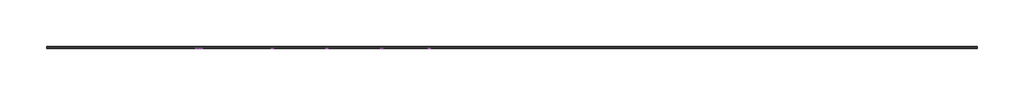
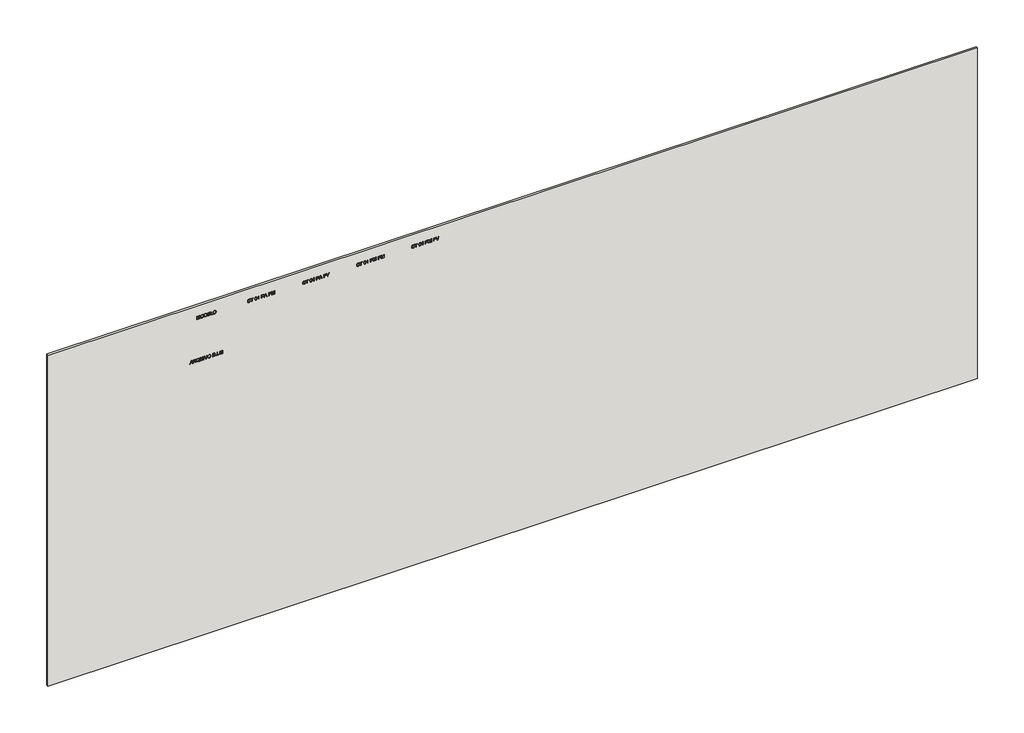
# One storey, incomplete: 6 proxies, 1 wall.
"""IFC4 building model written with IfcOpenShell, lengths in millimetres."""

from ifc_helpers import new_model, si_unit, frame, origin, place, context, project, spatial, polyline, outline, extrude, element, save

model = new_model("IFC4")

# Units and contexts
model_context = context("Model", 3, world=origin())
ifc_project = project(units=[si_unit("LENGTHUNIT", "METRE", prefix="MILLI")], contexts=[model_context])

# Site, building, storey
site = spatial("IfcSite", under=ifc_project)
building = spatial("IfcBuilding", under=site)
storey = spatial("IfcBuildingStorey", under=building, Name="01 - Marelli - Planta Baixa - Cabine 01 Pessoa", Elevation=0.0)

# Proxies
placement = place(None, origin())
element("IfcBuildingElementProxy", 1, Name="300mm Arial", ObjectType="300mm Arial", at=placement, inside=storey, context=model_context, shape_type="SweptSolid", body=[
    extrude(outline(polyline([(1600.0, -7636.3146377), (1600.0, -7596.5098058), (1694.1777908, -7562.076051), (1694.1777908, -7437.9526659), (1600.0, -7403.4453347), (1600.0, -7363.6405028), (1901.3689304, -7483.9379153), (1901.3689304, -7516.0172252), (1600.0, -7636.3146377)]), holes=[polyline([(1731.8489071, -7548.243688), (1812.415064, -7518.739552), (1863.6978141, -7499.9775703), (1805.9403409, -7478.8611437), (1731.8489071, -7451.7114525), (1731.8489071, -7548.243688)])]), frame((0.0, 8778.3159498, 0.0), z_axis=(0.0, 1.0, 0.0), x_axis=(0.0, 0.0, 1.0)), (0.0, 0.0, 1.0), 10.0),
    extrude(outline(polyline([(1600.0, -7323.3942126), (1600.0, -7285.7230963), (1731.8489071, -7285.7230963), (1731.8489071, -7240.2528817), (1730.5245319, -7218.4006911), (1723.350833, -7200.484838), (1703.816299, -7180.582422), (1662.4663628, -7152.2555084), (1600.0, -7113.0392877), (1600.0, -7069.2613303), (1681.6698029, -7119.5140108), (1720.4445652, -7150.0482164), (1736.5577966, -7171.4589486), (1746.5457928, -7134.3488523), (1754.5610217, -7119.9669655), (1764.5904046, -7108.3671864), (1789.2017101, -7093.0540983), (1818.8897871, -7087.9497357), (1842.7561316, -7091.0307474), (1864.4703663, -7100.2737825), (1881.9815493, -7114.6763626), (1893.2387384, -7133.2360093), (1899.3363824, -7158.629064), (1901.3689304, -7193.5318683), (1901.3689304, -7323.3942126), (1600.0, -7323.3942126)]), holes=[polyline([(1769.5200234, -7285.7230963), (1863.6978141, -7285.7230963), (1863.6978141, -7191.9131875), (1860.4420585, -7162.1055488), (1850.6747915, -7141.5501423), (1835.8675412, -7129.6031746), (1817.4918355, -7125.620852), (1804.1837044, -7127.7085823), (1791.9240369, -7133.9717732), (1781.7888879, -7144.254075), (1774.8543123, -7158.3991377), (1770.8535956, -7177.1887106), (1769.5200234, -7201.404543), (1769.5200234, -7285.7230963)])]), frame((0.0, 8778.3159498, 0.0), z_axis=(0.0, 1.0, 0.0), x_axis=(0.0, 0.0, 1.0)), (0.0, 0.0, 1.0), 10.0),
    extrude(outline(polyline([(1636.1260119, -6795.6307023), (1659.6520655, -6777.1814202), (1686.9673037, -6764.0664271), (1718.0349382, -6756.2305406), (1752.8181808, -6753.6185784), (1794.6463636, -6757.9227978), (1831.9863862, -6770.8354558), (1863.1827793, -6791.9610794), (1886.5800742, -6820.9041954), (1901.2033836, -6855.7702114), (1906.07782, -6894.6645354), (1901.3137481, -6933.2553567), (1887.0215326, -6967.9466288), (1863.6150407, -6996.93573), (1831.5081396, -7018.4200386), (1793.055274, -7031.7189727), (1750.6108888, -7036.1519507), (1708.2032918, -7031.7097756), (1670.3022493, -7018.3832504), (1638.6460036, -6996.8161684), (1614.9727972, -6967.6523232), (1600.2115321, -6932.8322924), (1595.2911105, -6894.2966534), (1599.5585416, -6855.9449554), (1612.360835, -6821.0881364), (1591.52032, -6790.1308665), (1577.1177399, -6759.063232), (1604.7088895, -6748.9096889), (1617.5295771, -6771.2953083), (1636.1260119, -6795.6307023)]), holes=[polyline([(1686.2315397, -6883.9223811), (1657.3895912, -6893.6344658), (1650.712533, -6873.2721974), (1640.6877487, -6853.9767867), (1634.8936072, -6873.6032912), (1632.9622268, -6894.5173826), (1634.8637168, -6916.2385151), (1640.568187, -6935.9316982), (1650.0756373, -6953.5969318), (1663.3860678, -6969.2342158), (1680.251158, -6982.0296115), (1700.4225876, -6991.1691798), (1723.9003567, -6996.6529208), (1750.6844652, -6998.4808344), (1778.1859436, -6996.6322274), (1802.0499888, -6991.0864063), (1822.2766007, -6981.8433712), (1838.8657795, -6968.903122), (1851.7899338, -6953.1577726), (1861.0214726, -6935.4994369), (1866.5603959, -6915.9281147), (1868.4067037, -6894.4438062), (1864.7554749, -6865.9605427), (1853.8017885, -6840.4019411), (1836.2354232, -6819.2027411), (1812.7461578, -6803.7976826), (1784.0605592, -6794.4166917), (1750.9051944, -6791.2896947), (1721.7321522, -6793.5015852), (1696.4586591, -6800.1372567), (1675.0847152, -6811.1967092), (1657.6103204, -6826.6799427), (1674.2569807, -6852.2477413), (1686.2315397, -6883.9223811)])]), frame((0.0, 8778.3159498, 0.0), z_axis=(0.0, 1.0, 0.0), x_axis=(0.0, 0.0, 1.0)), (0.0, 0.0, 1.0), 10.0),
    extrude(outline(polyline([(1901.3689304, -6499.3385434), (1728.8322747, -6499.3385434), (1681.6698029, -6504.1026152), (1664.9311721, -6510.057705), (1652.7542781, -6518.3948307), (1644.0952556, -6529.5278596), (1637.9102396, -6543.8706589), (1632.9622268, -6582.1855687), (1635.4638243, -6606.3554158), (1642.968617, -6626.4785609), (1655.0811317, -6641.9112106), (1671.4058953, -6652.0095714), (1694.9779341, -6657.5829836), (1728.8322747, -6659.4407877), (1901.3689304, -6659.4407877), (1901.3689304, -6697.111904), (1727.5078995, -6697.111904), (1684.7324205, -6694.2516215), (1652.0553023, -6685.6707739), (1627.6923172, -6670.4036711), (1609.8592375, -6647.4846228), (1598.9331422, -6616.904432), (1595.2911105, -6578.6539015), (1599.4757682, -6539.5480454), (1612.0297412, -6508.7563224), (1631.2515755, -6486.2235502), (1655.4398167, -6471.8945465), (1686.7925597, -6464.2242069), (1727.5078995, -6461.6674271), (1901.3689304, -6461.6674271), (1901.3689304, -6499.3385434)])), frame((0.0, 8778.3159498, 0.0), z_axis=(0.0, 1.0, 0.0), x_axis=(0.0, 0.0, 1.0)), (0.0, 0.0, 1.0), 10.0),
    extrude(outline(polyline([(-6353.3629677, 8778.3159498), (-6391.034084, 8778.3159498), (-6391.034084, 8788.3159498), (-6353.3629677, 8788.3159498), (-6353.3629677, 8778.3159498)])), frame((0.0, 0.0, 1600.0), z_axis=(0.0, 0.0, 1.0), x_axis=(1.0, 0.0, 0.0)), (0.0, 0.0, 1.0), 301.3689304),
    extrude(outline(polyline([(1600.0, -6188.9932922), (1600.0, -6150.0713771), (1901.3689304, -6035.2186183), (1901.3689304, -6075.5384849), (1684.2449769, -6156.0310655), (1635.3166715, -6172.0707205), (1684.2449769, -6188.3311046), (1901.3689304, -6268.602956), (1901.3689304, -6308.9228227), (1600.0, -6188.9932922)])), frame((0.0, 8778.3159498, 0.0), z_axis=(0.0, 1.0, 0.0), x_axis=(0.0, 0.0, 1.0)), (0.0, 0.0, 1.0), 10.0),
    extrude(outline(polyline([(1746.7113397, -6014.3229209), (1708.1665036, -6010.0187016), (1671.7002009, -5997.1060436), (1640.007167, -5975.8424642), (1615.7821376, -5946.485481), (1600.4138672, -5910.8377157), (1595.2911105, -5870.70179), (1599.9264236, -5832.892718), (1613.832363, -5797.7507904), (1636.7514113, -5767.7868019), (1668.4260511, -5745.5115471), (1706.8881137, -5731.6883811), (1750.1694304, -5727.0806591), (1792.8805301, -5731.4584548), (1830.8091638, -5744.5918421), (1862.4286213, -5766.0761506), (1886.2121922, -5795.5067102), (1901.1114131, -5830.9521404), (1906.07782, -5870.4810608), (1903.4336681, -5900.7715446), (1895.5012126, -5928.1465636), (1882.2804534, -5952.6061177), (1863.7713905, -5974.1502071), (1840.5902263, -5991.7257694), (1813.3531631, -6004.2797425), (1782.0602009, -6011.8121263), (1746.7113397, -6014.3229209)]), holes=[polyline([(1746.3434577, -5976.6518046), (1776.8799625, -5974.6882345), (1802.7121764, -5968.797524), (1823.8400992, -5958.9796733), (1840.263731, -5945.2346822), (1852.5762816, -5928.7673644), (1861.3709605, -5910.7825334), (1866.6477679, -5891.2801891), (1868.4067037, -5870.2603316), (1864.7554749, -5841.0964864), (1853.8017885, -5814.9676677), (1836.2078321, -5793.3086153), (1812.6357932, -5777.5540688), (1783.8122389, -5767.9523488), (1750.463736, -5764.7517754), (1723.9256486, -5766.6210758), (1700.5973316, -5772.228977), (1680.478785, -5781.5754789), (1663.5700088, -5794.6605816), (1650.1791041, -5810.642755), (1640.6141723, -5828.6804691), (1634.8752131, -5848.7737238), (1632.9622268, -5870.9225192), (1634.856819, -5892.6988341), (1640.5405959, -5912.557564), (1650.0135572, -5930.4987091), (1663.2757032, -5946.5222692), (1679.8349915, -5959.703941), (1699.19938, -5969.1194208), (1721.3688687, -5974.7687087), (1746.3434577, -5976.6518046)])]), frame((0.0, 8778.3159498, 0.0), z_axis=(0.0, 1.0, 0.0), x_axis=(0.0, 0.0, 1.0)), (0.0, 0.0, 1.0), 10.0),
    extrude(outline(polyline([(1600.0, -5557.5606357), (1600.0, -5443.4436408), (1605.1871361, -5395.1407348), (1611.6066769, -5377.10532), (1620.4910271, -5362.3624491), (1632.7598917, -5350.3235108), (1649.3329756, -5340.399894), (1668.8215242, -5333.7504269), (1689.8367832, -5331.5339379), (1715.055094, -5334.7804965), (1736.7049494, -5344.5201723), (1753.6643094, -5360.2931129), (1764.8111338, -5381.6394656), (1776.5557665, -5363.7695977), (1791.4825785, -5351.0684718), (1808.543106, -5343.4809057), (1826.6888854, -5340.951717), (1846.4073604, -5343.9591523), (1865.2429185, -5352.9814582), (1881.2549824, -5367.3104619), (1892.5029744, -5386.2379906), (1899.1524414, -5410.9320695), (1901.3689304, -5442.560724), (1901.3689304, -5557.5606357), (1600.0, -5557.5606357)]), holes=[polyline([(1778.9378025, -5519.8895194), (1863.6978141, -5519.8895194), (1863.6978141, -5456.3195106), (1859.7614768, -5407.9062401), (1854.1604734, -5395.4166463), (1845.230138, -5386.2012024), (1833.7890079, -5380.5174255), (1820.6556207, -5378.6228333), (1807.1267603, -5380.6553813), (1796.1178916, -5386.7530254), (1787.7577733, -5396.8605832), (1782.175164, -5410.9228724), (1778.9378025, -5451.0955863), (1778.9378025, -5519.8895194)]), polyline([(1637.6711163, -5519.8895194), (1741.2666861, -5519.8895194), (1741.2666861, -5446.3131204), (1740.0066903, -5419.4853259), (1736.2267028, -5399.776048), (1729.3381125, -5385.8609115), (1718.752308, -5376.4155413), (1705.2142506, -5371.007676), (1689.4689012, -5369.2050542), (1675.9124497, -5370.7409615), (1664.0850436, -5375.3486835), (1647.3464128, -5391.0204565), (1639.1426443, -5414.6752688), (1637.6711163, -5442.6343004), (1637.6711163, -5519.8895194)])]), frame((0.0, 8778.3159498, 0.0), z_axis=(0.0, 1.0, 0.0), x_axis=(0.0, 0.0, 1.0)), (0.0, 0.0, 1.0), 10.0),
    extrude(outline(polyline([(-5237.3561471, 8778.3159498), (-5275.0272634, 8778.3159498), (-5275.0272634, 8788.3159498), (-5237.3561471, 8788.3159498), (-5237.3561471, 8778.3159498)])), frame((0.0, 0.0, 1600.0), z_axis=(0.0, 0.0, 1.0), x_axis=(1.0, 0.0, 0.0)), (0.0, 0.0, 1.0), 37.6711163),
    extrude(outline(polyline([(-5119.6339087, 8778.3159498), (-5157.305025, 8778.3159498), (-5157.305025, 8788.3159498), (-5119.6339087, 8788.3159498), (-5119.6339087, 8778.3159498)])), frame((0.0, 0.0, 1600.0), z_axis=(0.0, 0.0, 1.0), x_axis=(1.0, 0.0, 0.0)), (0.0, 0.0, 1.0), 301.3689304),
    extrude(outline(polyline([(-5001.9116702, 8778.3159498), (-5039.5827865, 8778.3159498), (-5039.5827865, 8788.3159498), (-5001.9116702, 8788.3159498), (-5001.9116702, 8778.3159498)])), frame((0.0, 0.0, 1600.0), z_axis=(0.0, 0.0, 1.0), x_axis=(1.0, 0.0, 0.0)), (0.0, 0.0, 1.0), 37.6711163),
    extrude(outline(polyline([(1600.0, -4926.5694376), (1600.0, -4888.8983213), (1863.6978141, -4888.8983213), (1600.0, -4813.1882067), (1600.0, -4762.1261857), (1863.6978141, -4686.4160711), (1600.0, -4686.4160711), (1600.0, -4648.7449548), (1901.3689304, -4648.7449548), (1901.3689304, -4713.5657624), (1692.6326864, -4774.1927152), (1644.5872978, -4787.6571962), (1688.9538664, -4800.0916076), (1901.3689304, -4861.74863), (1901.3689304, -4926.5694376), (1600.0, -4926.5694376)])), frame((0.0, 8778.3159498, 0.0), z_axis=(0.0, 1.0, 0.0), x_axis=(0.0, 0.0, 1.0)), (0.0, 0.0, 1.0), 10.0),
])
element("IfcBuildingElementProxy", 2, Name="300mm Arial", ObjectType="300mm Arial", at=placement, inside=storey, context=model_context, shape_type="SweptSolid", body=[
    extrude(outline(polyline([(5700.0, -6993.7719449), (5700.0, -6956.1008286), (5963.6978141, -6956.1008286), (5700.0, -6880.390714), (5700.0, -6829.328693), (5963.6978141, -6753.6185784), (5700.0, -6753.6185784), (5700.0, -6715.9474621), (6001.3689304, -6715.9474621), (6001.3689304, -6780.7682697), (5792.6326864, -6841.3952225), (5744.5872978, -6854.8597035), (5788.9538664, -6867.2941149), (6001.3689304, -6928.9511373), (6001.3689304, -6993.7719449), (5700.0, -6993.7719449)])), frame((0.0, 8778.3159498, 0.0), z_axis=(0.0, 1.0, 0.0), x_axis=(0.0, 0.0, 1.0)), (0.0, 0.0, 1.0), 10.0),
    extrude(outline(polyline([(5846.7113397, -6664.1496772), (5808.1665036, -6659.8454579), (5771.7002009, -6646.9327998), (5740.007167, -6625.6692205), (5715.7821376, -6596.3122373), (5700.4138672, -6560.664472), (5695.2911105, -6520.5285463), (5699.9264236, -6482.7194742), (5713.832363, -6447.5775466), (5736.7514113, -6417.6135581), (5768.4260511, -6395.3383033), (5806.8881137, -6381.5151374), (5850.1694304, -6376.9074154), (5892.8805301, -6381.2852111), (5930.8091638, -6394.4185983), (5962.4286213, -6415.9029069), (5986.2121922, -6445.3334665), (6001.1114131, -6480.7788967), (6006.07782, -6520.3078171), (6003.4336681, -6550.5983009), (5995.5012126, -6577.9733198), (5982.2804534, -6602.432874), (5963.7713905, -6623.9769633), (5940.5902263, -6641.5525257), (5913.3531631, -6654.1064987), (5882.0602009, -6661.6388826), (5846.7113397, -6664.1496772)]), holes=[polyline([(5846.3434577, -6626.4785609), (5876.8799625, -6624.5149908), (5902.7121764, -6618.6242803), (5923.8400992, -6608.8064296), (5940.263731, -6595.0614385), (5952.5762816, -6578.5941207), (5961.3709605, -6560.6092897), (5966.6477679, -6541.1069454), (5968.4067037, -6520.0870879), (5964.7554749, -6490.9232427), (5953.8017885, -6464.794424), (5936.2078321, -6443.1353716), (5912.6357932, -6427.3808251), (5883.8122389, -6417.779105), (5850.463736, -6414.5785317), (5823.9256486, -6416.4478321), (5800.5973316, -6422.0557332), (5780.478785, -6431.4022352), (5763.5700088, -6444.4873379), (5750.1791041, -6460.4695113), (5740.6141723, -6478.5072254), (5734.8752131, -6498.6004801), (5732.9622268, -6520.7492755), (5734.856819, -6542.5255903), (5740.5405959, -6562.3843203), (5750.0135572, -6580.3254653), (5763.2757032, -6596.3490255), (5779.8349915, -6609.5306972), (5799.19938, -6618.9461771), (5821.3688687, -6624.5954649), (5846.3434577, -6626.4785609)])]), frame((0.0, 8778.3159498, 0.0), z_axis=(0.0, 1.0, 0.0), x_axis=(0.0, 0.0, 1.0)), (0.0, 0.0, 1.0), 10.0),
    extrude(outline(polyline([(5700.0, -6325.1096305), (5700.0, -6216.1429835), (5705.1503479, -6167.6929247), (5711.5055094, -6148.1491937), (5720.2702979, -6131.6772774), (5732.088507, -6117.3298796), (5747.6039302, -6104.1597042), (5767.2580258, -6092.7185741), (5791.4922522, -6083.5583124), (5819.9571216, -6077.5434418), (5852.303146, -6075.5384849), (5890.3789325, -6078.499935), (5923.9665587, -6087.3842852), (5952.5142015, -6102.2283237), (5975.470038, -6123.0688387), (5988.6586075, -6143.3391366), (5997.0279229, -6167.3618309), (6001.3689304, -6221.1461786), (6001.3689304, -6325.1096305), (5700.0, -6325.1096305)]), holes=[polyline([(5737.6711163, -6287.4385141), (5963.6978141, -6287.4385141), (5963.6978141, -6221.8083662), (5962.189498, -6190.06015), (5957.6645494, -6168.3919005), (5945.0829852, -6147.10073), (5924.2608643, -6129.2860444), (5893.9473879, -6117.228712), (5852.8917572, -6113.2096012), (5821.9068962, -6115.2605434), (5795.9068361, -6121.4133697), (5774.7996067, -6131.245016), (5758.4932372, -6144.332418), (5749.6824634, -6156.5093121), (5743.1157698, -6172.2914497), (5739.0322797, -6193.2055411), (5737.6711163, -6220.7782966), (5737.6711163, -6287.4385141)])]), frame((0.0, 8778.3159498, 0.0), z_axis=(0.0, 1.0, 0.0), x_axis=(0.0, 0.0, 1.0)), (0.0, 0.0, 1.0), 10.0),
    extrude(outline(polyline([(5700.0, -6023.7407), (5700.0, -5802.4228917), (5737.6711163, -5802.4228917), (5737.6711163, -5986.0695837), (5836.5577966, -5986.0695837), (5836.5577966, -5816.5495603), (5874.2289129, -5816.5495603), (5874.2289129, -5986.0695837), (5963.6978141, -5986.0695837), (5963.6978141, -5807.1317812), (6001.3689304, -5807.1317812), (6001.3689304, -6023.7407), (5700.0, -6023.7407)])), frame((0.0, 8778.3159498, 0.0), z_axis=(0.0, 1.0, 0.0), x_axis=(0.0, 0.0, 1.0)), (0.0, 0.0, 1.0), 10.0),
    extrude(outline(polyline([(5700.0, -5745.9162172), (5700.0, -5557.5606357), (5737.6711163, -5557.5606357), (5737.6711163, -5708.2451009), (6001.3689304, -5708.2451009), (6001.3689304, -5745.9162172), (5700.0, -5745.9162172)])), frame((0.0, 8778.3159498, 0.0), z_axis=(0.0, 1.0, 0.0), x_axis=(0.0, 0.0, 1.0)), (0.0, 0.0, 1.0), 10.0),
    extrude(outline(polyline([(5846.7113397, -5529.3072985), (5808.1665036, -5525.0030791), (5771.7002009, -5512.0904211), (5740.007167, -5490.8268418), (5715.7821376, -5461.4698586), (5700.4138672, -5425.8220932), (5695.2911105, -5385.6861676), (5699.9264236, -5347.8770955), (5713.832363, -5312.7351679), (5736.7514113, -5282.7711794), (5768.4260511, -5260.4959246), (5806.8881137, -5246.6727586), (5850.1694304, -5242.0650367), (5892.8805301, -5246.4428324), (5930.8091638, -5259.5762196), (5962.4286213, -5281.0605281), (5986.2121922, -5310.4910878), (6001.1114131, -5345.936518), (6006.07782, -5385.4654384), (6003.4336681, -5415.7559222), (5995.5012126, -5443.1309411), (5982.2804534, -5467.5904953), (5963.7713905, -5489.1345846), (5940.5902263, -5506.7101469), (5913.3531631, -5519.26412), (5882.0602009, -5526.7965039), (5846.7113397, -5529.3072985)]), holes=[polyline([(5846.3434577, -5491.6361822), (5876.8799625, -5489.672612), (5902.7121764, -5483.7819016), (5923.8400992, -5473.9640508), (5940.263731, -5460.2190598), (5952.5762816, -5443.751742), (5961.3709605, -5425.7669109), (5966.6477679, -5406.2645667), (5968.4067037, -5385.2447092), (5964.7554749, -5356.080864), (5953.8017885, -5329.9520453), (5936.2078321, -5308.2929928), (5912.6357932, -5292.5384464), (5883.8122389, -5282.9367263), (5850.463736, -5279.736153), (5823.9256486, -5281.6054533), (5800.5973316, -5287.2133545), (5780.478785, -5296.5598565), (5763.5700088, -5309.6449592), (5750.1791041, -5325.6271326), (5740.6141723, -5343.6648467), (5734.8752131, -5363.7581014), (5732.9622268, -5385.9068968), (5734.856819, -5407.6832116), (5740.5405959, -5427.5419416), (5750.0135572, -5445.4830866), (5763.2757032, -5461.5066468), (5779.8349915, -5474.6883185), (5799.19938, -5484.1037983), (5821.3688687, -5489.7530862), (5846.3434577, -5491.6361822)])]), frame((0.0, 8778.3159498, 0.0), z_axis=(0.0, 1.0, 0.0), x_axis=(0.0, 0.0, 1.0)), (0.0, 0.0, 1.0), 10.0),
])
element("IfcBuildingElementProxy", 3, Name="300mm Arial", ObjectType="300mm Arial", at=placement, inside=storey, context=model_context, shape_type="SweptSolid", body=[
    extrude(outline(polyline([(5807.127237, -2142.1019653), (5774.863986, -2154.2880564), (5751.6506321, -2174.0709107), (5737.6343281, -2200.2733058), (5732.9622268, -2231.7180194), (5736.3927264, -2258.6929667), (5746.6842252, -2283.6997453), (5763.9102996, -2304.5586544), (5788.144526, -2319.0899932), (5818.2372732, -2327.6156585), (5853.03891, -2330.4575469), (5881.4577941, -2328.0571169), (5909.0305497, -2320.8558268), (5933.4211259, -2307.7316366), (5952.2934723, -2287.5625062), (5964.3783958, -2260.9830321), (5968.4067037, -2228.6278106), (5964.773869, -2200.5584144), (5953.8753649, -2177.7129425), (5935.0306097, -2159.8706657), (5907.5590217, -2146.8108549), (5916.5353424, -2109.1397386), (5954.3536115, -2125.7772018), (5969.6758966, -2137.5793161), (5982.6069487, -2151.7036854), (5992.8754549, -2167.8835954), (6000.2101022, -2185.8523316), (6006.07782, -2227.1562826), (6001.5436744, -2265.0113399), (5987.9412376, -2299.5554593), (5965.6016035, -2328.6825162), (5934.8558657, -2350.2863864), (5896.9088379, -2363.668094), (5852.9653336, -2368.1286632), (5811.3026976, -2364.1831288), (5772.3991767, -2352.3465256), (5739.3081912, -2332.9591444), (5715.0831618, -2306.3612762), (5700.2391233, -2271.660807), (5695.2911105, -2227.965623), (5696.9258861, -2205.5432154), (5701.8302129, -2184.9234296), (5710.004091, -2166.1062655), (5721.4475203, -2149.0917233), (5736.004151, -2134.2154951), (5753.5176332, -2121.8132733), (5773.987967, -2111.885058), (5797.4151523, -2104.430849), (5807.127237, -2142.1019653)])), frame((0.0, 8778.3159498, 0.0), z_axis=(0.0, 1.0, 0.0), x_axis=(0.0, 0.0, 1.0)), (0.0, 0.0, 1.0), 10.0),
    extrude(outline(polyline([(5700.0, -1977.2908315), (5700.0, -1939.6197152), (5963.6978141, -1939.6197152), (5963.6978141, -1840.7330349), (6001.3689304, -1840.7330349), (6001.3689304, -2076.1775118), (5963.6978141, -2076.1775118), (5963.6978141, -1977.2908315), (5700.0, -1977.2908315)])), frame((0.0, 8778.3159498, 0.0), z_axis=(0.0, 1.0, 0.0), x_axis=(0.0, 0.0, 1.0)), (0.0, 0.0, 1.0), 10.0),
    extrude(outline(polyline([(5848.2564441, -1694.7574592), (5808.8148956, -1692.881261), (5774.9559565, -1687.2526665), (5746.6796267, -1677.8716756), (5723.9859061, -1664.7382884), (5711.431933, -1651.0530782), (5702.4648094, -1635.0134232), (5697.0845352, -1616.6193234), (5695.2911105, -1595.8707789), (5699.4205859, -1565.4193468), (5711.809012, -1540.7252678), (5732.5943448, -1521.6229952), (5761.9145398, -1507.9469821), (5800.2938289, -1499.7248195), (5848.2564441, -1496.9840986), (5888.2176258, -1498.6947499), (5919.0737281, -1503.8267037), (5943.3723339, -1511.6625902), (5963.6610259, -1521.4850395), (5979.8018485, -1534.489668), (5991.6568458, -1551.8720923), (5998.9409093, -1572.657425), (6001.3689304, -1595.8707789), (5997.2670462, -1626.1566642), (5984.9613935, -1650.7955608), (5964.2588342, -1669.9254245), (5934.9662303, -1683.6842112), (5896.4949707, -1691.9891472), (5848.2564441, -1694.7574592)]), holes=[polyline([(5848.3300205, -1657.0863429), (5906.8232577, -1652.5246062), (5927.902896, -1646.8224352), (5943.5378808, -1638.8393959), (5958.6578308, -1619.8934732), (5963.6978141, -1596.3122373), (5957.9772491, -1571.4066262), (5940.815554, -1551.7249395), (5926.4543607, -1544.256935), (5906.2530406, -1538.9226461), (5848.3300205, -1534.6552149), (5789.1653986, -1539.0697988), (5768.9019984, -1544.5880288), (5754.8512055, -1552.3135507), (5738.4344714, -1572.0320256), (5732.9622268, -1595.8707789), (5738.4160773, -1619.7095322), (5754.7776291, -1639.4280071), (5768.8054294, -1647.153529), (5789.0734281, -1652.671759), (5848.3300205, -1657.0863429)])]), frame((0.0, 8778.3159498, 0.0), z_axis=(0.0, 1.0, 0.0), x_axis=(0.0, 0.0, 1.0)), (0.0, 0.0, 1.0), 10.0),
    extrude(outline(polyline([(5700.0, -1322.7551857), (6001.3689304, -1322.7551857), (6001.3689304, -1347.0353974), (5981.6320614, -1360.3435285), (5961.269793, -1380.5494471), (5942.1215351, -1406.1816251), (5926.0266978, -1435.7685346), (5890.4157207, -1435.7685346), (5909.4352199, -1396.1108555), (5934.8558657, -1360.426302), (5700.0, -1360.426302), (5700.0, -1322.7551857)])), frame((0.0, 8778.3159498, 0.0), z_axis=(0.0, 1.0, 0.0), x_axis=(0.0, 0.0, 1.0)), (0.0, 0.0, 1.0), 10.0),
    extrude(outline(polyline([(5700.0, -1101.4373774), (5700.0, -1063.7662611), (5822.431128, -1063.7662611), (5822.431128, -987.1732297), (5824.095794, -957.9748956), (5829.0897921, -933.6555964), (5837.4131222, -914.2153323), (5849.0657844, -899.654103), (5863.1234752, -889.0476053), (5878.661891, -881.4715354), (5895.6810318, -876.9258935), (5914.1808976, -875.4106796), (5935.637615, -877.6547597), (5955.2733165, -884.3870002), (5971.9199767, -894.8072577), (5984.4095705, -908.1153889), (5993.1375708, -924.6424876), (5998.4994509, -944.7196474), (6001.3689304, -989.7484037), (6001.3689304, -1101.4373774), (5700.0, -1101.4373774)]), holes=[polyline([(5860.1022443, -1063.7662611), (5963.6978141, -1063.7662611), (5963.6978141, -985.8488545), (5961.1226402, -948.1777382), (5954.7950699, -933.949902), (5944.0529156, -922.7570923), (5929.7790942, -915.50062), (5912.8565224, -913.0817959), (5890.5812676, -917.1836801), (5873.9346073, -929.4893328), (5863.5603351, -951.5622526), (5860.1022443, -984.9659377), (5860.1022443, -1063.7662611)])]), frame((0.0, 8778.3159498, 0.0), z_axis=(0.0, 1.0, 0.0), x_axis=(0.0, 0.0, 1.0)), (0.0, 0.0, 1.0), 10.0),
    extrude(outline(polyline([(5700.0, -858.708837), (5700.0, -818.9040051), (5794.1777908, -784.4702503), (5794.1777908, -660.3468652), (5700.0, -625.839534), (5700.0, -586.0347021), (6001.3689304, -706.3321146), (6001.3689304, -738.4114245), (5700.0, -858.708837)]), holes=[polyline([(5831.8489071, -770.6378873), (5912.415064, -741.1337513), (5963.6978141, -722.3717696), (5905.9403409, -701.255343), (5831.8489071, -674.1056518), (5831.8489071, -770.6378873)])]), frame((0.0, 8778.3159498, 0.0), z_axis=(0.0, 1.0, 0.0), x_axis=(0.0, 0.0, 1.0)), (0.0, 0.0, 1.0), 10.0),
    extrude(outline(polyline([(5700.0, -428.0661734), (5700.0, -390.3950571), (5836.5577966, -390.3950571), (5836.5577966, -249.128371), (5874.2289129, -249.128371), (5874.2289129, -390.3950571), (5963.6978141, -390.3950571), (5963.6978141, -225.5839233), (6001.3689304, -225.5839233), (6001.3689304, -428.0661734), (5700.0, -428.0661734)])), frame((0.0, 8778.3159498, 0.0), z_axis=(0.0, 1.0, 0.0), x_axis=(0.0, 0.0, 1.0)), (0.0, 0.0, 1.0), 10.0),
    extrude(outline(polyline([(5700.0, -173.7861383), (5700.0, -136.115022), (5963.6978141, -136.115022), (5700.0, -60.4049074), (5700.0, -9.3428865), (5963.6978141, 66.3672281), (5700.0, 66.3672281), (5700.0, 104.0383444), (6001.3689304, 104.0383444), (6001.3689304, 39.2175369), (5792.6326864, -21.4094159), (5744.5872978, -34.873897), (5788.9538664, -47.3083084), (6001.3689304, -108.9653308), (6001.3689304, -173.7861383), (5700.0, -173.7861383)])), frame((0.0, 8778.3159498, 0.0), z_axis=(0.0, 1.0, 0.0), x_axis=(0.0, 0.0, 1.0)), (0.0, 0.0, 1.0), 10.0),
])
element("IfcBuildingElementProxy", 4, Name="300mm Arial", ObjectType="300mm Arial", at=placement, inside=storey, context=model_context, shape_type="SweptSolid", body=[
    extrude(outline(polyline([(5807.127237, 7824.9358079), (5774.863986, 7812.7497168), (5751.6506321, 7792.9668625), (5737.6343281, 7766.7644674), (5732.9622268, 7735.3197539), (5736.3927264, 7708.3448066), (5746.6842252, 7683.3380279), (5763.9102996, 7662.4791188), (5788.144526, 7647.94778), (5818.2372732, 7639.4221148), (5853.03891, 7636.5802264), (5881.4577941, 7638.9806564), (5909.0305497, 7646.1819464), (5933.4211259, 7659.3061366), (5952.2934723, 7679.475267), (5964.3783958, 7706.0547411), (5968.4067037, 7738.4099626), (5964.773869, 7766.4793589), (5953.8753649, 7789.3248308), (5935.0306097, 7807.1671075), (5907.5590217, 7820.2269184), (5916.5353424, 7857.8980347), (5954.3536115, 7841.2605714), (5969.6758966, 7829.4584572), (5982.6069487, 7815.3340878), (5992.8754549, 7799.1541778), (6000.2101022, 7781.1854416), (6006.07782, 7739.8814906), (6001.5436744, 7702.0264333), (5987.9412376, 7667.482314), (5965.6016035, 7638.355257), (5934.8558657, 7616.7513868), (5896.9088379, 7603.3696792), (5852.9653336, 7598.9091101), (5811.3026976, 7602.8546445), (5772.3991767, 7614.6912476), (5739.3081912, 7634.0786288), (5715.0831618, 7660.676497), (5700.2391233, 7695.3769662), (5695.2911105, 7739.0721502), (5696.9258861, 7761.4945578), (5701.8302129, 7782.1143437), (5710.004091, 7800.9315077), (5721.4475203, 7817.94605), (5736.004151, 7832.8222782), (5753.5176332, 7845.2244999), (5773.987967, 7855.1527153), (5797.4151523, 7862.6069242), (5807.127237, 7824.9358079)])), frame((0.0, 8778.3159498, 0.0), z_axis=(0.0, 1.0, 0.0), x_axis=(0.0, 0.0, 1.0)), (0.0, 0.0, 1.0), 10.0),
    extrude(outline(polyline([(5700.0, 7989.7469417), (5700.0, 8027.418058), (5963.6978141, 8027.418058), (5963.6978141, 8126.3047383), (6001.3689304, 8126.3047383), (6001.3689304, 7890.8602614), (5963.6978141, 7890.8602614), (5963.6978141, 7989.7469417), (5700.0, 7989.7469417)])), frame((0.0, 8778.3159498, 0.0), z_axis=(0.0, 1.0, 0.0), x_axis=(0.0, 0.0, 1.0)), (0.0, 0.0, 1.0), 10.0),
    extrude(outline(polyline([(5848.2564441, 8272.280314), (5808.8148956, 8274.1565122), (5774.9559565, 8279.7851067), (5746.6796267, 8289.1660976), (5723.9859061, 8302.2994848), (5711.431933, 8315.9846951), (5702.4648094, 8332.02435), (5697.0845352, 8350.4184498), (5695.2911105, 8371.1669943), (5699.4205859, 8401.6184265), (5711.809012, 8426.3125054), (5732.5943448, 8445.414778), (5761.9145398, 8459.0907912), (5800.2938289, 8467.3129538), (5848.2564441, 8470.0536746), (5888.2176258, 8468.3430234), (5919.0737281, 8463.2110695), (5943.3723339, 8455.375183), (5963.6610259, 8445.5527338), (5979.8018485, 8432.5481052), (5991.6568458, 8415.165681), (5998.9409093, 8394.3803482), (6001.3689304, 8371.1669943), (5997.2670462, 8340.8811091), (5984.9613935, 8316.2422124), (5964.2588342, 8297.1123487), (5934.9662303, 8283.3535621), (5896.4949707, 8275.048626), (5848.2564441, 8272.280314)]), holes=[polyline([(5848.3300205, 8309.9514303), (5906.8232577, 8314.5131671), (5927.902896, 8320.215338), (5943.5378808, 8328.1983773), (5958.6578308, 8347.1443), (5963.6978141, 8370.7255359), (5957.9772491, 8395.631147), (5940.815554, 8415.3128337), (5926.4543607, 8422.7808383), (5906.2530406, 8428.1151272), (5848.3300205, 8432.3825583), (5789.1653986, 8427.9679744), (5768.9019984, 8422.4497445), (5754.8512055, 8414.7242226), (5738.4344714, 8395.0057476), (5732.9622268, 8371.1669943), (5738.4160773, 8347.328241), (5754.7776291, 8327.6097661), (5768.8054294, 8319.8842442), (5789.0734281, 8314.3660143), (5848.3300205, 8309.9514303)])]), frame((0.0, 8778.3159498, 0.0), z_axis=(0.0, 1.0, 0.0), x_axis=(0.0, 0.0, 1.0)), (0.0, 0.0, 1.0), 10.0),
    extrude(outline(polyline([(5700.0, 8644.2825875), (6001.3689304, 8644.2825875), (6001.3689304, 8620.0023759), (5981.6320614, 8606.6942447), (5961.269793, 8586.4883261), (5942.1215351, 8560.8561481), (5926.0266978, 8531.2692386), (5890.4157207, 8531.2692386), (5909.4352199, 8570.9269177), (5934.8558657, 8606.6114712), (5700.0, 8606.6114712), (5700.0, 8644.2825875)])), frame((0.0, 8778.3159498, 0.0), z_axis=(0.0, 1.0, 0.0), x_axis=(0.0, 0.0, 1.0)), (0.0, 0.0, 1.0), 10.0),
    extrude(outline(polyline([(5700.0, 8865.6003958), (5700.0, 8903.2715122), (5822.431128, 8903.2715122), (5822.431128, 8979.8645435), (5824.095794, 9009.0628777), (5829.0897921, 9033.3821768), (5837.4131222, 9052.822441), (5849.0657844, 9067.3836702), (5863.1234752, 9077.990168), (5878.661891, 9085.5662378), (5895.6810318, 9090.1118797), (5914.1808976, 9091.6270937), (5935.637615, 9089.3830135), (5955.2733165, 9082.650773), (5971.9199767, 9072.2305155), (5984.4095705, 9058.9223843), (5993.1375708, 9042.3952857), (5998.4994509, 9022.3181258), (6001.3689304, 8977.2893696), (6001.3689304, 8865.6003958), (5700.0, 8865.6003958)]), holes=[polyline([(5860.1022443, 8903.2715122), (5963.6978141, 8903.2715122), (5963.6978141, 8981.1889187), (5961.1226402, 9018.860035), (5954.7950699, 9033.0878712), (5944.0529156, 9044.2806809), (5929.7790942, 9051.5371533), (5912.8565224, 9053.9559774), (5890.5812676, 9049.8540931), (5873.9346073, 9037.5484404), (5863.5603351, 9015.4755207), (5860.1022443, 8982.0718355), (5860.1022443, 8903.2715122)])]), frame((0.0, 8778.3159498, 0.0), z_axis=(0.0, 1.0, 0.0), x_axis=(0.0, 0.0, 1.0)), (0.0, 0.0, 1.0), 10.0),
    extrude(outline(polyline([(5700.0, 9143.4248786), (5700.0, 9181.0959949), (5963.6978141, 9181.0959949), (5700.0, 9256.8061095), (5700.0, 9307.8681304), (5963.6978141, 9383.5782451), (5700.0, 9383.5782451), (5700.0, 9421.2493614), (6001.3689304, 9421.2493614), (6001.3689304, 9356.4285538), (5792.6326864, 9295.801601), (5744.5872978, 9282.33712), (5788.9538664, 9269.9027085), (6001.3689304, 9208.2456862), (6001.3689304, 9143.4248786), (5700.0, 9143.4248786)])), frame((0.0, 8778.3159498, 0.0), z_axis=(0.0, 1.0, 0.0), x_axis=(0.0, 0.0, 1.0)), (0.0, 0.0, 1.0), 10.0),
    extrude(outline(polyline([(5700.0, 9604.8960534), (5700.0, 9642.5671697), (5836.5577966, 9642.5671697), (5836.5577966, 9783.8338558), (5874.2289129, 9783.8338558), (5874.2289129, 9642.5671697), (5963.6978141, 9642.5671697), (5963.6978141, 9807.3783035), (6001.3689304, 9807.3783035), (6001.3689304, 9604.8960534), (5700.0, 9604.8960534)])), frame((0.0, 8778.3159498, 0.0), z_axis=(0.0, 1.0, 0.0), x_axis=(0.0, 0.0, 1.0)), (0.0, 0.0, 1.0), 10.0),
    extrude(outline(polyline([(5700.0, 9859.1760884), (5700.0, 9896.8472047), (5963.6978141, 9896.8472047), (5700.0, 9972.5573193), (5700.0, 10023.6193403), (5963.6978141, 10099.3294549), (5700.0, 10099.3294549), (5700.0, 10137.0005712), (6001.3689304, 10137.0005712), (6001.3689304, 10072.1797636), (5792.6326864, 10011.5528108), (5744.5872978, 9998.0883298), (5788.9538664, 9985.6539184), (6001.3689304, 9923.996896), (6001.3689304, 9859.1760884), (5700.0, 9859.1760884)])), frame((0.0, 8778.3159498, 0.0), z_axis=(0.0, 1.0, 0.0), x_axis=(0.0, 0.0, 1.0)), (0.0, 0.0, 1.0), 10.0),
])
element("IfcBuildingElementProxy", 5, Name="300mm Arial", ObjectType="300mm Arial", at=placement, inside=storey, context=model_context, shape_type="SweptSolid", body=[
    extrude(outline(polyline([(5807.127237, 2890.8602614), (5774.863986, 2878.6741703), (5751.6506321, 2858.891316), (5737.6343281, 2832.6889209), (5732.9622268, 2801.2442074), (5736.3927264, 2774.2692601), (5746.6842252, 2749.2624815), (5763.9102996, 2728.4035724), (5788.144526, 2713.8722335), (5818.2372732, 2705.3465683), (5853.03891, 2702.5046799), (5881.4577941, 2704.9051099), (5909.0305497, 2712.1064), (5933.4211259, 2725.2305901), (5952.2934723, 2745.3997205), (5964.3783958, 2771.9791947), (5968.4067037, 2804.3344162), (5964.773869, 2832.4038124), (5953.8753649, 2855.2492843), (5935.0306097, 2873.0915611), (5907.5590217, 2886.1513719), (5916.5353424, 2923.8224882), (5954.3536115, 2907.185025), (5969.6758966, 2895.3829107), (5982.6069487, 2881.2585414), (5992.8754549, 2865.0786314), (6000.2101022, 2847.1098951), (6006.07782, 2805.8059441), (6001.5436744, 2767.9508868), (5987.9412376, 2733.4067675), (5965.6016035, 2704.2797105), (5934.8558657, 2682.6758404), (5896.9088379, 2669.2941328), (5852.9653336, 2664.8335636), (5811.3026976, 2668.779098), (5772.3991767, 2680.6157012), (5739.3081912, 2700.0030823), (5715.0831618, 2726.6009506), (5700.2391233, 2761.3014198), (5695.2911105, 2804.9966038), (5696.9258861, 2827.4190114), (5701.8302129, 2848.0387972), (5710.004091, 2866.8559612), (5721.4475203, 2883.8705035), (5736.004151, 2898.7467317), (5753.5176332, 2911.1489535), (5773.987967, 2921.0771688), (5797.4151523, 2928.5313777), (5807.127237, 2890.8602614)])), frame((0.0, 8778.3159498, 0.0), z_axis=(0.0, 1.0, 0.0), x_axis=(0.0, 0.0, 1.0)), (0.0, 0.0, 1.0), 10.0),
    extrude(outline(polyline([(5700.0, 3055.6713953), (5700.0, 3093.3425116), (5963.6978141, 3093.3425116), (5963.6978141, 3192.2291919), (6001.3689304, 3192.2291919), (6001.3689304, 2956.784715), (5963.6978141, 2956.784715), (5963.6978141, 3055.6713953), (5700.0, 3055.6713953)])), frame((0.0, 8778.3159498, 0.0), z_axis=(0.0, 1.0, 0.0), x_axis=(0.0, 0.0, 1.0)), (0.0, 0.0, 1.0), 10.0),
    extrude(outline(polyline([(5848.2564441, 3338.2047676), (5808.8148956, 3340.0809657), (5774.9559565, 3345.7095603), (5746.6796267, 3355.0905511), (5723.9859061, 3368.2239384), (5711.431933, 3381.9091486), (5702.4648094, 3397.9488036), (5697.0845352, 3416.3429033), (5695.2911105, 3437.0914479), (5699.4205859, 3467.54288), (5711.809012, 3492.2369589), (5732.5943448, 3511.3392315), (5761.9145398, 3525.0152447), (5800.2938289, 3533.2374073), (5848.2564441, 3535.9781282), (5888.2176258, 3534.2674769), (5919.0737281, 3529.1355231), (5943.3723339, 3521.2996366), (5963.6610259, 3511.4771873), (5979.8018485, 3498.4725588), (5991.6568458, 3481.0901345), (5998.9409093, 3460.3048018), (6001.3689304, 3437.0914479), (5997.2670462, 3406.8055626), (5984.9613935, 3382.166666), (5964.2588342, 3363.0368022), (5934.9662303, 3349.2780156), (5896.4949707, 3340.9730796), (5848.2564441, 3338.2047676)]), holes=[polyline([(5848.3300205, 3375.8758839), (5906.8232577, 3380.4376206), (5927.902896, 3386.1397915), (5943.5378808, 3394.1228308), (5958.6578308, 3413.0687536), (5963.6978141, 3436.6499895), (5957.9772491, 3461.5556005), (5940.815554, 3481.2372873), (5926.4543607, 3488.7052918), (5906.2530406, 3494.0395807), (5848.3300205, 3498.3070119), (5789.1653986, 3493.8924279), (5768.9019984, 3488.374198), (5754.8512055, 3480.6486761), (5738.4344714, 3460.9302012), (5732.9622268, 3437.0914479), (5738.4160773, 3413.2526946), (5754.7776291, 3393.5342196), (5768.8054294, 3385.8086977), (5789.0734281, 3380.2904678), (5848.3300205, 3375.8758839)])]), frame((0.0, 8778.3159498, 0.0), z_axis=(0.0, 1.0, 0.0), x_axis=(0.0, 0.0, 1.0)), (0.0, 0.0, 1.0), 10.0),
    extrude(outline(polyline([(5700.0, 3710.2070411), (6001.3689304, 3710.2070411), (6001.3689304, 3685.9268294), (5981.6320614, 3672.6186982), (5961.269793, 3652.4127796), (5942.1215351, 3626.7806016), (5926.0266978, 3597.1936922), (5890.4157207, 3597.1936922), (5909.4352199, 3636.8513712), (5934.8558657, 3672.5359248), (5700.0, 3672.5359248), (5700.0, 3710.2070411)])), frame((0.0, 8778.3159498, 0.0), z_axis=(0.0, 1.0, 0.0), x_axis=(0.0, 0.0, 1.0)), (0.0, 0.0, 1.0), 10.0),
    extrude(outline(polyline([(5700.0, 3931.5248494), (5700.0, 3969.1959657), (5822.431128, 3969.1959657), (5822.431128, 4045.7889971), (5824.095794, 4074.9873312), (5829.0897921, 4099.3066303), (5837.4131222, 4118.7468945), (5849.0657844, 4133.3081237), (5863.1234752, 4143.9146215), (5878.661891, 4151.4906913), (5895.6810318, 4156.0363333), (5914.1808976, 4157.5515472), (5935.637615, 4155.307467), (5955.2733165, 4148.5752265), (5971.9199767, 4138.154969), (5984.4095705, 4124.8468378), (5993.1375708, 4108.3197392), (5998.4994509, 4088.2425793), (6001.3689304, 4043.2138231), (6001.3689304, 3931.5248494), (5700.0, 3931.5248494)]), holes=[polyline([(5860.1022443, 3969.1959657), (5963.6978141, 3969.1959657), (5963.6978141, 4047.1133723), (5961.1226402, 4084.7844886), (5954.7950699, 4099.0123247), (5944.0529156, 4110.2051344), (5929.7790942, 4117.4616068), (5912.8565224, 4119.8804309), (5890.5812676, 4115.7785467), (5873.9346073, 4103.4728939), (5863.5603351, 4081.3999742), (5860.1022443, 4047.9962891), (5860.1022443, 3969.1959657)])]), frame((0.0, 8778.3159498, 0.0), z_axis=(0.0, 1.0, 0.0), x_axis=(0.0, 0.0, 1.0)), (0.0, 0.0, 1.0), 10.0),
    extrude(outline(polyline([(5700.0, 4174.2533898), (5700.0, 4214.0582217), (5794.1777908, 4248.4919764), (5794.1777908, 4372.6153616), (5700.0, 4407.1226927), (5700.0, 4446.9275246), (6001.3689304, 4326.6301122), (6001.3689304, 4294.5508022), (5700.0, 4174.2533898)]), holes=[polyline([(5831.8489071, 4262.3243394), (5912.415064, 4291.8284755), (5963.6978141, 4310.5904572), (5905.9403409, 4331.7068837), (5831.8489071, 4358.856575), (5831.8489071, 4262.3243394)])]), frame((0.0, 8778.3159498, 0.0), z_axis=(0.0, 1.0, 0.0), x_axis=(0.0, 0.0, 1.0)), (0.0, 0.0, 1.0), 10.0),
    extrude(outline(polyline([(5700.0, 4604.8960534), (5700.0, 4642.5671697), (5836.5577966, 4642.5671697), (5836.5577966, 4783.8338558), (5874.2289129, 4783.8338558), (5874.2289129, 4642.5671697), (5963.6978141, 4642.5671697), (5963.6978141, 4807.3783035), (6001.3689304, 4807.3783035), (6001.3689304, 4604.8960534), (5700.0, 4604.8960534)])), frame((0.0, 8778.3159498, 0.0), z_axis=(0.0, 1.0, 0.0), x_axis=(0.0, 0.0, 1.0)), (0.0, 0.0, 1.0), 10.0),
    extrude(outline(polyline([(5700.0, 4948.2035313), (5700.0, 4987.1254463), (6001.3689304, 5101.9782052), (6001.3689304, 5061.6583386), (5784.2449769, 4981.165758), (5735.3166715, 4965.126103), (5784.2449769, 4948.8657188), (6001.3689304, 4868.5938675), (6001.3689304, 4828.2740008), (5700.0, 4948.2035313)])), frame((0.0, 8778.3159498, 0.0), z_axis=(0.0, 1.0, 0.0), x_axis=(0.0, 0.0, 1.0)), (0.0, 0.0, 1.0), 10.0),
])
element("IfcBuildingElementProxy", 6, Name="300mm Arial", ObjectType="300mm Arial", at=placement, inside=storey, context=model_context, shape_type="SweptSolid", body=[
    extrude(outline(polyline([(5807.127237, 12857.8980347), (5774.863986, 12845.7119436), (5751.6506321, 12825.9290893), (5737.6343281, 12799.7266942), (5732.9622268, 12768.2819806), (5736.3927264, 12741.3070333), (5746.6842252, 12716.3002547), (5763.9102996, 12695.4413456), (5788.144526, 12680.9100068), (5818.2372732, 12672.3843415), (5853.03891, 12669.5424531), (5881.4577941, 12671.9428831), (5909.0305497, 12679.1441732), (5933.4211259, 12692.2683634), (5952.2934723, 12712.4374938), (5964.3783958, 12739.0169679), (5968.4067037, 12771.3721894), (5964.773869, 12799.4415856), (5953.8753649, 12822.2870575), (5935.0306097, 12840.1293343), (5907.5590217, 12853.1891451), (5916.5353424, 12890.8602614), (5954.3536115, 12874.2227982), (5969.6758966, 12862.4206839), (5982.6069487, 12848.2963146), (5992.8754549, 12832.1164046), (6000.2101022, 12814.1476684), (6006.07782, 12772.8437174), (6001.5436744, 12734.9886601), (5987.9412376, 12700.4445407), (5965.6016035, 12671.3174838), (5934.8558657, 12649.7136136), (5896.9088379, 12636.331906), (5852.9653336, 12631.8713368), (5811.3026976, 12635.8168712), (5772.3991767, 12647.6534744), (5739.3081912, 12667.0408556), (5715.0831618, 12693.6387238), (5700.2391233, 12728.339193), (5695.2911105, 12772.034377), (5696.9258861, 12794.4567846), (5701.8302129, 12815.0765704), (5710.004091, 12833.8937345), (5721.4475203, 12850.9082767), (5736.004151, 12865.7845049), (5753.5176332, 12878.1867267), (5773.987967, 12888.114942), (5797.4151523, 12895.569151), (5807.127237, 12857.8980347)])), frame((0.0, 8778.3159498, 0.0), z_axis=(0.0, 1.0, 0.0), x_axis=(0.0, 0.0, 1.0)), (0.0, 0.0, 1.0), 10.0),
    extrude(outline(polyline([(5700.0, 13022.7091685), (5700.0, 13060.3802848), (5963.6978141, 13060.3802848), (5963.6978141, 13159.2669651), (6001.3689304, 13159.2669651), (6001.3689304, 12923.8224882), (5963.6978141, 12923.8224882), (5963.6978141, 13022.7091685), (5700.0, 13022.7091685)])), frame((0.0, 8778.3159498, 0.0), z_axis=(0.0, 1.0, 0.0), x_axis=(0.0, 0.0, 1.0)), (0.0, 0.0, 1.0), 10.0),
    extrude(outline(polyline([(5848.2564441, 13305.2425408), (5808.8148956, 13307.118739), (5774.9559565, 13312.7473335), (5746.6796267, 13322.1283244), (5723.9859061, 13335.2617116), (5711.431933, 13348.9469218), (5702.4648094, 13364.9865768), (5697.0845352, 13383.3806766), (5695.2911105, 13404.1292211), (5699.4205859, 13434.5806532), (5711.809012, 13459.2747322), (5732.5943448, 13478.3770048), (5761.9145398, 13492.0530179), (5800.2938289, 13500.2751805), (5848.2564441, 13503.0159014), (5888.2176258, 13501.3052501), (5919.0737281, 13496.1732963), (5943.3723339, 13488.3374098), (5963.6610259, 13478.5149605), (5979.8018485, 13465.510332), (5991.6568458, 13448.1279077), (5998.9409093, 13427.342575), (6001.3689304, 13404.1292211), (5997.2670462, 13373.8433358), (5984.9613935, 13349.2044392), (5964.2588342, 13330.0745755), (5934.9662303, 13316.3157888), (5896.4949707, 13308.0108528), (5848.2564441, 13305.2425408)]), holes=[polyline([(5848.3300205, 13342.9136571), (5906.8232577, 13347.4753938), (5927.902896, 13353.1775648), (5943.5378808, 13361.1606041), (5958.6578308, 13380.1065268), (5963.6978141, 13403.6877627), (5957.9772491, 13428.5933738), (5940.815554, 13448.2750605), (5926.4543607, 13455.743065), (5906.2530406, 13461.0773539), (5848.3300205, 13465.3447851), (5789.1653986, 13460.9302012), (5768.9019984, 13455.4119712), (5754.8512055, 13447.6864493), (5738.4344714, 13427.9679744), (5732.9622268, 13404.1292211), (5738.4160773, 13380.2904678), (5754.7776291, 13360.5719929), (5768.8054294, 13352.846471), (5789.0734281, 13347.328241), (5848.3300205, 13342.9136571)])]), frame((0.0, 8778.3159498, 0.0), z_axis=(0.0, 1.0, 0.0), x_axis=(0.0, 0.0, 1.0)), (0.0, 0.0, 1.0), 10.0),
    extrude(outline(polyline([(5700.0, 13677.2448143), (6001.3689304, 13677.2448143), (6001.3689304, 13652.9646026), (5981.6320614, 13639.6564715), (5961.269793, 13619.4505529), (5942.1215351, 13593.8183749), (5926.0266978, 13564.2314654), (5890.4157207, 13564.2314654), (5909.4352199, 13603.8891445), (5934.8558657, 13639.573698), (5700.0, 13639.573698), (5700.0, 13677.2448143)])), frame((0.0, 8778.3159498, 0.0), z_axis=(0.0, 1.0, 0.0), x_axis=(0.0, 0.0, 1.0)), (0.0, 0.0, 1.0), 10.0),
    extrude(outline(polyline([(5700.0, 13898.5626226), (5700.0, 13936.2337389), (5822.431128, 13936.2337389), (5822.431128, 14012.8267703), (5824.095794, 14042.0251044), (5829.0897921, 14066.3444036), (5837.4131222, 14085.7846677), (5849.0657844, 14100.345897), (5863.1234752, 14110.9523947), (5878.661891, 14118.5284646), (5895.6810318, 14123.0741065), (5914.1808976, 14124.5893204), (5935.637615, 14122.3452403), (5955.2733165, 14115.6129998), (5971.9199767, 14105.1927423), (5984.4095705, 14091.8846111), (5993.1375708, 14075.3575124), (5998.4994509, 14055.2803526), (6001.3689304, 14010.2515963), (6001.3689304, 13898.5626226), (5700.0, 13898.5626226)]), holes=[polyline([(5860.1022443, 13936.2337389), (5963.6978141, 13936.2337389), (5963.6978141, 14014.1511455), (5961.1226402, 14051.8222618), (5954.7950699, 14066.050098), (5944.0529156, 14077.2429077), (5929.7790942, 14084.49938), (5912.8565224, 14086.9182041), (5890.5812676, 14082.8163199), (5873.9346073, 14070.5106672), (5863.5603351, 14048.4377474), (5860.1022443, 14015.0340623), (5860.1022443, 13936.2337389)])]), frame((0.0, 8778.3159498, 0.0), z_axis=(0.0, 1.0, 0.0), x_axis=(0.0, 0.0, 1.0)), (0.0, 0.0, 1.0), 10.0),
    extrude(outline(polyline([(5700.0, 14176.3871054), (5700.0, 14214.0582217), (5963.6978141, 14214.0582217), (5700.0, 14289.7683363), (5700.0, 14340.8303572), (5963.6978141, 14416.5404718), (5700.0, 14416.5404718), (5700.0, 14454.2115881), (6001.3689304, 14454.2115881), (6001.3689304, 14389.3907806), (5792.6326864, 14328.7638278), (5744.5872978, 14315.2993467), (5788.9538664, 14302.8649353), (6001.3689304, 14241.2079129), (6001.3689304, 14176.3871054), (5700.0, 14176.3871054)])), frame((0.0, 8778.3159498, 0.0), z_axis=(0.0, 1.0, 0.0), x_axis=(0.0, 0.0, 1.0)), (0.0, 0.0, 1.0), 10.0),
    extrude(outline(polyline([(5700.0, 14637.8582801), (5700.0, 14675.5293964), (5836.5577966, 14675.5293964), (5836.5577966, 14816.7960826), (5874.2289129, 14816.7960826), (5874.2289129, 14675.5293964), (5963.6978141, 14675.5293964), (5963.6978141, 14840.3405303), (6001.3689304, 14840.3405303), (6001.3689304, 14637.8582801), (5700.0, 14637.8582801)])), frame((0.0, 8778.3159498, 0.0), z_axis=(0.0, 1.0, 0.0), x_axis=(0.0, 0.0, 1.0)), (0.0, 0.0, 1.0), 10.0),
    extrude(outline(polyline([(5700.0, 14981.165758), (5700.0, 15020.0876731), (6001.3689304, 15134.940432), (6001.3689304, 15094.6205653), (5784.2449769, 15014.1279848), (5735.3166715, 14998.0883298), (5784.2449769, 14981.8279456), (6001.3689304, 14901.5560943), (6001.3689304, 14861.2362276), (5700.0, 14981.165758)])), frame((0.0, 8778.3159498, 0.0), z_axis=(0.0, 1.0, 0.0), x_axis=(0.0, 0.0, 1.0)), (0.0, 0.0, 1.0), 10.0),
])

# Wall
element("IfcWall", 7, ObjectType="Genérico - 200 mm", at=placement, inside=storey, context=model_context, shape_type="SweptSolid", body=[
    extrude(outline(polyline([(64375.0181749, 8788.3159498), (-20624.9818251, 8788.3159498), (-20624.9818251, 8988.3159498), (64375.0181749, 8988.3159498), (64375.0181749, 8788.3159498)])), frame((0.0, 0.0, -25000.0), z_axis=(0.0, 0.0, 1.0), x_axis=(1.0, 0.0, 0.0)), (0.0, 0.0, 1.0), 32000.0),
])

save(model, "model.ifc")
